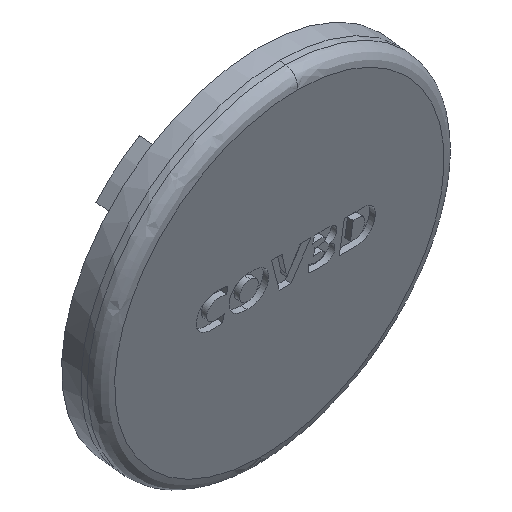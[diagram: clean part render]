
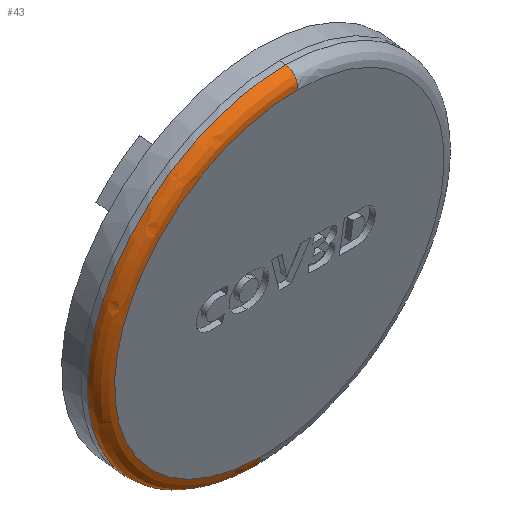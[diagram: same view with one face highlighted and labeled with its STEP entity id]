
A CAD part, isometric view. The second image highlights one B-rep face of the part: STEP entity #43.
In plain terms, the highlighted free-form (B-spline) face has degree [2, 2] with [3, 5] control points.
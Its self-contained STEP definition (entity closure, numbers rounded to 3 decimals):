
#43=ADVANCED_FACE('',(#110),#1043,.T.);
#110=FACE_OUTER_BOUND('',#186,.T.);
#186=EDGE_LOOP('',(#321,#322,#323,#324));
#321=ORIENTED_EDGE('',*,*,#577,.F.);
#322=ORIENTED_EDGE('',*,*,#578,.T.);
#323=ORIENTED_EDGE('',*,*,#579,.T.);
#324=ORIENTED_EDGE('',*,*,#713,.F.);
#577=EDGE_CURVE('',#888,#977,#727,.T.);
#578=EDGE_CURVE('',#888,#889,#728,.T.);
#579=EDGE_CURVE('',#889,#978,#729,.T.);
#713=EDGE_CURVE('',#977,#978,#746,.T.);
#727=(
BOUNDED_CURVE()
B_SPLINE_CURVE(2,(#2068,#2069,#2070,#2071,#2072),.UNSPECIFIED.,.F.,.F.)
B_SPLINE_CURVE_WITH_KNOTS((3,2,3),(0.,43.396,86.792),
 .UNSPECIFIED.)
CURVE()
GEOMETRIC_REPRESENTATION_ITEM()
RATIONAL_B_SPLINE_CURVE((1.,0.707,1.,0.707,1.))
REPRESENTATION_ITEM('')
);
#728=(
BOUNDED_CURVE()
B_SPLINE_CURVE(2,(#2073,#2074,#2075),.UNSPECIFIED.,.F.,.F.)
B_SPLINE_CURVE_WITH_KNOTS((3,3),(0.,3.727),.UNSPECIFIED.)
CURVE()
GEOMETRIC_REPRESENTATION_ITEM()
RATIONAL_B_SPLINE_CURVE((1.,0.707,1.))
REPRESENTATION_ITEM('')
);
#729=(
BOUNDED_CURVE()
B_SPLINE_CURVE(2,(#2076,#2077,#2078,#2079,#2080),.UNSPECIFIED.,.F.,.F.)
B_SPLINE_CURVE_WITH_KNOTS((3,2,3),(0.,43.396,86.792),
 .UNSPECIFIED.)
CURVE()
GEOMETRIC_REPRESENTATION_ITEM()
RATIONAL_B_SPLINE_CURVE((1.,0.707,1.,0.707,1.))
REPRESENTATION_ITEM('')
);
#746=(
BOUNDED_CURVE()
B_SPLINE_CURVE(2,(#2816,#2817,#2818),.UNSPECIFIED.,.F.,.F.)
B_SPLINE_CURVE_WITH_KNOTS((3,3),(0.,3.727),.UNSPECIFIED.)
CURVE()
GEOMETRIC_REPRESENTATION_ITEM()
RATIONAL_B_SPLINE_CURVE((1.,0.707,1.))
REPRESENTATION_ITEM('')
);
#888=VERTEX_POINT('',#1920);
#889=VERTEX_POINT('',#1921);
#977=VERTEX_POINT('',#2009);
#978=VERTEX_POINT('',#2010);
#1043=(
BOUNDED_SURFACE()
B_SPLINE_SURFACE(2,2,((#1190,#1191,#1192,#1193,#1194),(#1195,#1196,#1197,
#1198,#1199),(#1200,#1201,#1202,#1203,#1204)),.UNSPECIFIED.,.F.,.F.,.F.)
B_SPLINE_SURFACE_WITH_KNOTS((3,3),(3,2,3),(0.,3.727),(0.,43.396,
86.792),.UNSPECIFIED.)
GEOMETRIC_REPRESENTATION_ITEM()
RATIONAL_B_SPLINE_SURFACE(((1.,0.707,1.,0.707,1.),
(0.707,0.5,0.707,0.5,
0.707),(1.,0.707,1.,0.707,1.)))
REPRESENTATION_ITEM('')
SURFACE()
);
#1190=CARTESIAN_POINT('',(-0.114,-103.736,-25.364));
#1191=CARTESIAN_POINT('',(-31.812,-103.698,-25.36));
#1192=CARTESIAN_POINT('',(-31.812,-107.206,7.179));
#1193=CARTESIAN_POINT('',(-31.812,-110.714,39.718));
#1194=CARTESIAN_POINT('',(-0.114,-110.752,39.714));
#1195=CARTESIAN_POINT('',(-0.116,-106.095,-25.619));
#1196=CARTESIAN_POINT('',(-31.815,-106.057,-25.615));
#1197=CARTESIAN_POINT('',(-31.815,-109.565,6.924));
#1198=CARTESIAN_POINT('',(-31.815,-113.073,39.464));
#1199=CARTESIAN_POINT('',(-0.116,-113.112,39.46));
#1200=CARTESIAN_POINT('',(-0.116,-106.373,-23.045));
#1201=CARTESIAN_POINT('',(-29.308,-106.337,-23.041));
#1202=CARTESIAN_POINT('',(-29.308,-109.568,6.924));
#1203=CARTESIAN_POINT('',(-29.308,-112.799,36.889));
#1204=CARTESIAN_POINT('',(-0.116,-112.834,36.886));
#1920=CARTESIAN_POINT('',(-0.114,-103.736,-25.364));
#1921=CARTESIAN_POINT('',(-0.116,-106.373,-23.045));
#2009=CARTESIAN_POINT('',(-0.114,-110.752,39.714));
#2010=CARTESIAN_POINT('',(-0.116,-112.834,36.886));
#2068=CARTESIAN_POINT('',(-0.114,-103.736,-25.364));
#2069=CARTESIAN_POINT('',(-31.812,-103.698,-25.36));
#2070=CARTESIAN_POINT('',(-31.812,-107.206,7.179));
#2071=CARTESIAN_POINT('',(-31.812,-110.714,39.718));
#2072=CARTESIAN_POINT('',(-0.114,-110.752,39.714));
#2073=CARTESIAN_POINT('',(-0.114,-103.736,-25.364));
#2074=CARTESIAN_POINT('',(-0.116,-106.095,-25.619));
#2075=CARTESIAN_POINT('',(-0.116,-106.373,-23.045));
#2076=CARTESIAN_POINT('',(-0.116,-106.373,-23.045));
#2077=CARTESIAN_POINT('',(-29.308,-106.337,-23.041));
#2078=CARTESIAN_POINT('',(-29.308,-109.568,6.924));
#2079=CARTESIAN_POINT('',(-29.308,-112.799,36.889));
#2080=CARTESIAN_POINT('',(-0.116,-112.834,36.886));
#2816=CARTESIAN_POINT('',(-0.114,-110.752,39.714));
#2817=CARTESIAN_POINT('',(-0.116,-113.112,39.46));
#2818=CARTESIAN_POINT('',(-0.116,-112.834,36.886));
